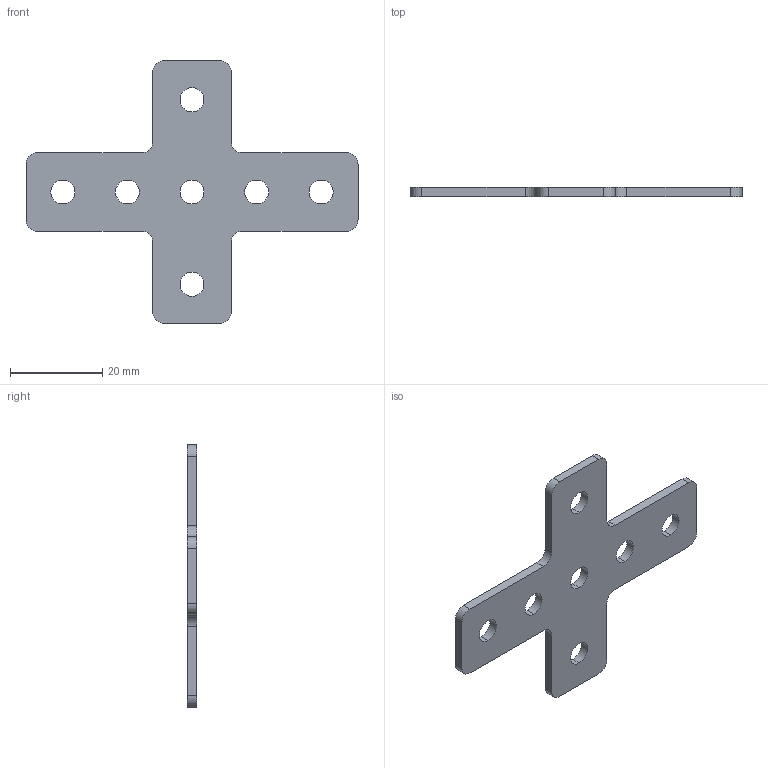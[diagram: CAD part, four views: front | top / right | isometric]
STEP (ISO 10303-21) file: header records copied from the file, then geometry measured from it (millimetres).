
FILE_DESCRIPTION (( 'STEP AP203' ), '1' );
FILE_NAME ('ﾕ-7-20.STEP', '2016-07-23T09:30:43', ( '' ), ( '' ), 'SwSTEP 2.0', 'SolidWorks 2014', '' );
FILE_SCHEMA (( 'CONFIG_CONTROL_DESIGN' ));
Length unit declared in the file: millimetre
Products named in the file (1): ﾕ-7-20
Bounding box: 72 x 2 x 57 mm (x, y, z)
Surface area: 4218.9 mm2 (no closed solid volume)
Topology: 0 solids, 1 shells, 40 faces, 114 edges, 76 vertices
Faces by surface type: cylinder 26, plane 14
Entity records: 1435 total; most frequent: DIRECTION 248, CARTESIAN_POINT 231, ORIENTED_EDGE 228, EDGE_CURVE 114, AXIS2_PLACEMENT_3D 93, VERTEX_POINT 76, VECTOR 62, LINE 62
